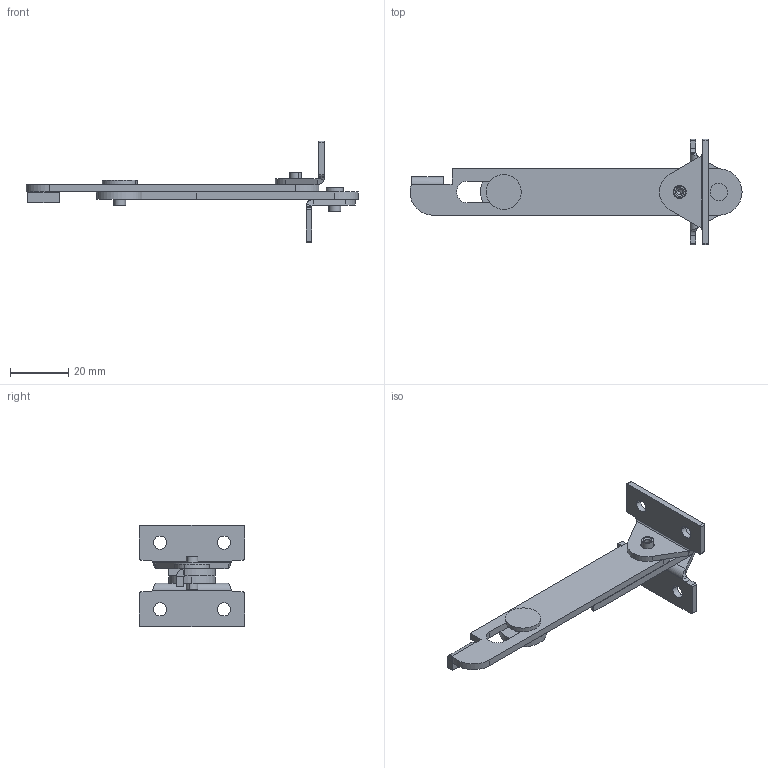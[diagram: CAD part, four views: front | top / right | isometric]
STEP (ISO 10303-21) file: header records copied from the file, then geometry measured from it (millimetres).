
FILE_DESCRIPTION (( 'STEP AP214' ), '1' );
FILE_NAME ('4.401.306.STEP', '2016-09-09T06:54:09', ( '' ), ( '' ), 'SwSTEP 2.0', 'SolidWorks 2015', '' );
FILE_SCHEMA (( 'AUTOMOTIVE_DESIGN' ));
Length unit declared in the file: millimetre
Products named in the file (6): 4.401.301.05_A; 4.401.301.04_A; 4.401.301.03_A; 4.401.301.02_305; 4.401.301.01_306; 4.401.306
Assembly tree (7 placements, depth 2):
  4.401.306
    4.401.301.01_306
    4.401.301.02_305
    4.401.301.03_A  x2
    4.401.301.04_A
    4.401.301.05_A  x2
Bounding box: 114.25 x 36.2 x 34.98 mm (x, y, z)
Volume: 9872.1 mm3; surface area: 10756.3 mm2
Topology: 7 solids, 7 shells, 138 faces, 328 edges, 206 vertices
Faces by surface type: cylinder 67, plane 54, bspline 9, cone 8
Entity records: 3066 total; most frequent: CARTESIAN_POINT 567, DIRECTION 496, ORIENTED_EDGE 448, EDGE_CURVE 224, AXIS2_PLACEMENT_3D 190, VERTEX_POINT 143, VECTOR 116, LINE 116
